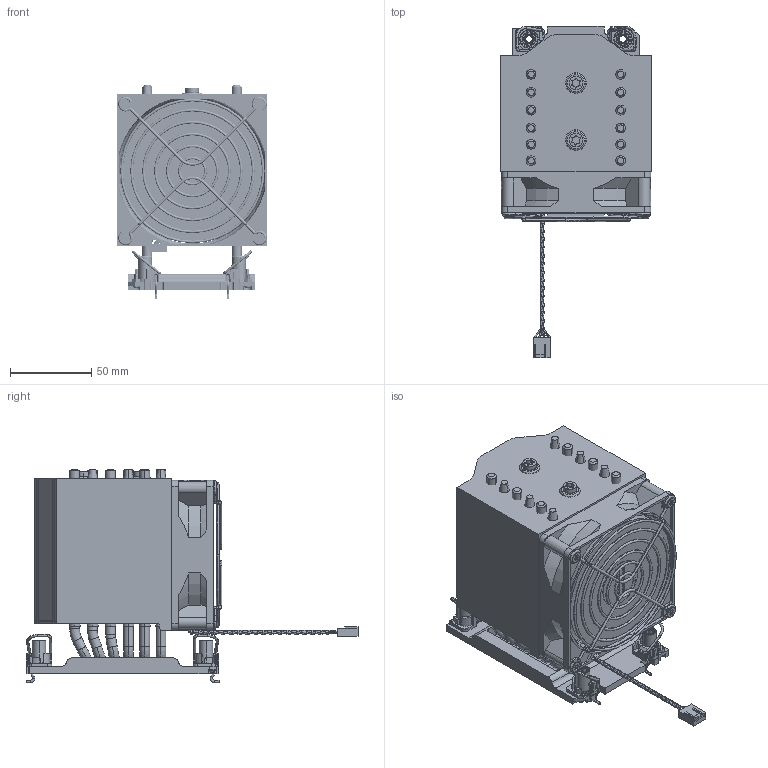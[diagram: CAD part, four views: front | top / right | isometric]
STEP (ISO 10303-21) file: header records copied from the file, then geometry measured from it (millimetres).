
FILE_DESCRIPTION((''),'2;1');
FILE_NAME('RGB420-AD_ME_ASM','2023-04-14T',('User'),(''),'PRO/ENGINEER BY PARAMETRIC TECHNOLOGY CORPORATION, 2017170','PRO/ENGINEER BY PARAMETRIC TECHNOLOGY CORPORATION, 2017170','');
FILE_SCHEMA(('CONFIG_CONTROL_DESIGN'));
Products named in the file (52): 04_2_1-1_1_2_1; 06_4_1-1_1_2_1; 05_2_1-1_1_2_1; KOU_RIGHT_ASM_2_ASM_1_ASM_ASM-1_ASM; 06_4_1_1_2_1; 05_2_1_1_2_1; 04_2_1_1_2_1; KOU_RIGHT_ASM_2_ASM_1_ASM_ASM_A_ASM; PRT0001_1_1_1_1_2_1_1; RG-001_2_1_1_3_1; RG-006_3_1_1_2_1; RG-005_3_1_1_2_1; RG-004_3_1_1_2_1; RG_ASM_2_ASM_1_ASM_ASM_ASM_1_AS_ASM; LS-003_1_1_1_1_2_1_1; 000311_1_1_1_2_1; RG-001_2_1_1_2_1_1; RG-001_2_1_2_1_2_1; LS-003_1_1_1_1_3_1; PRT0004_4_1_1_2_1; PRT0002_1_1_1_1_2_1; PRT0001_1_1_1_1_3_1; 3647-4U-R91_ASM_1_ASM_1_ASM_1_A_ASM; 3647-4U-R91_ASM_ASM_9_ASM_1_ASM_ASM; 02_2_1-1_1_2_1; 01_2_1-1_1_2_1; 03_3_1-1_1_2_1; KOU_LEFT_ASM_2_ASM_1_ASM_ASM-1__ASM; 01_2_1_1_2_1; 02_2_1_1_2_1; 03_3_1_1_2_1; KOU_LEFT_ASM_2_ASM_1_ASM_ASM_AS_ASM; 3647-4U-R96_ASM_2_ASM_ASM_ASM_1_ASM; 4677-LVBASE_1_1_1; AG09212VB257B10_N; 9025_NEW_ASM05292_ASM_1_A-23894; 2543-___4P_; 2543-BEIGE_HOUSING_4P_; 2543-ASSY_4P_ASM; ______5_1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
Assembly tree (57 placements, depth 5):
  RGB420-AD_ME_ASM
    3647-4U-R96_ASM_2_ASM_ASM_ASM_1_ASM
      KOU_RIGHT_ASM_2_ASM_1_ASM_ASM-1_ASM
        04_2_1-1_1_2_1
        06_4_1-1_1_2_1
        05_2_1-1_1_2_1
      KOU_RIGHT_ASM_2_ASM_1_ASM_ASM_A_ASM
        06_4_1_1_2_1
        05_2_1_1_2_1
        04_2_1_1_2_1
      3647-4U-R91_ASM_ASM_9_ASM_1_ASM_ASM
        PRT0001_1_1_1_1_2_1_1
        RG_ASM_2_ASM_1_ASM_ASM_ASM_1_AS_ASM
          RG-001_2_1_1_3_1
          RG-006_3_1_1_2_1
          RG-005_3_1_1_2_1
          RG-004_3_1_1_2_1
        LS-003_1_1_1_1_2_1_1
        000311_1_1_1_2_1
        RG-001_2_1_1_2_1_1
        RG-001_2_1_2_1_2_1
        3647-4U-R91_ASM_1_ASM_1_ASM_1_A_ASM
          LS-003_1_1_1_1_3_1
          PRT0004_4_1_1_2_1
          PRT0002_1_1_1_1_2_1
          PRT0001_1_1_1_1_3_1
      KOU_LEFT_ASM_2_ASM_1_ASM_ASM-1__ASM
        02_2_1-1_1_2_1
        01_2_1-1_1_2_1
        03_3_1-1_1_2_1
      KOU_LEFT_ASM_2_ASM_1_ASM_ASM_AS_ASM
        01_2_1_1_2_1
        02_2_1_1_2_1
        03_3_1_1_2_1
    4677-LVBASE_1_1_1
    AG09212VB257B10-RG01_ASSY_ASM
      AG09212VB257B10_N
      9025_NEW_ASM05292_ASM_1_A-23894
      2543-ASSY_4P_ASM
        2543-___4P_
        2543-BEIGE_HOUSING_4P_
      FAN_GUARD_ASM_1_ASM
        ______5_1
        __2-52409_1
        ______18_1
        __5-83000_1
        __3_1
        __9_1
        __4_1
      FAN_SCREW_T5_8L_1  x4
      T5_10L_SCREW_1  x4
      LABEL_RGE-ST002-1
Bounding box: 92.5 x 203.76 x 131.15 mm (x, y, z)
Volume: 889840.5 mm3; surface area: 205333.6 mm2
Topology: 44 solids, 48 shells, 3400 faces, 9485 edges, 6215 vertices
Faces by surface type: plane 1281, cylinder 1198, torus 344, cone 286, bspline 191, extrusion 95, sphere 4, revolution 1
Entity records: 156334 total; most frequent: CARTESIAN_POINT 49455, ORIENTED_EDGE 17878, DIRECTION 17172, EDGE_CURVE 8943, PRESENTATION_STYLE_ASSIGNMENT 7457, STYLED_ITEM 7421, CURVE_STYLE 7390, AXIS2_PLACEMENT_3D 6437
